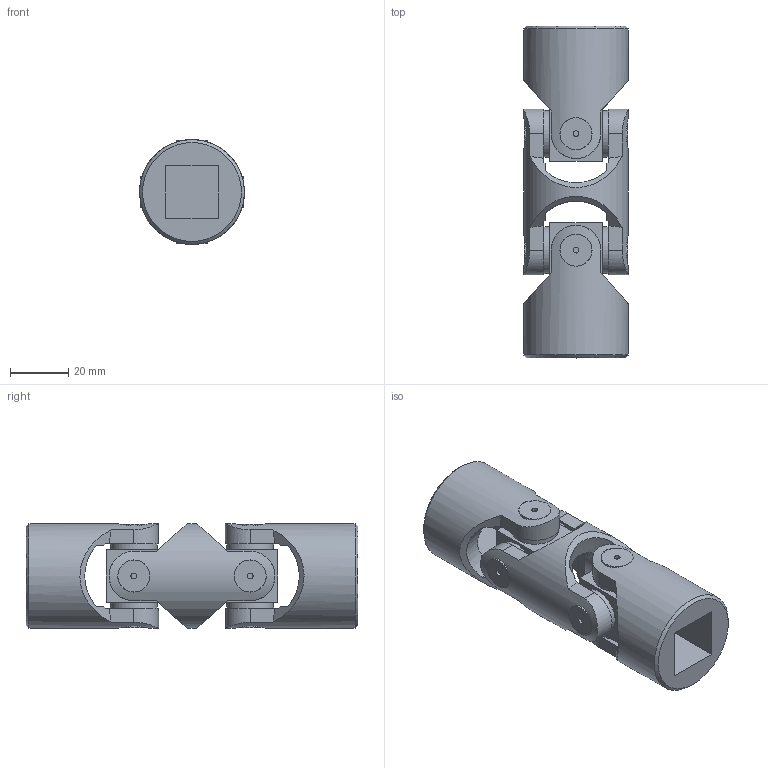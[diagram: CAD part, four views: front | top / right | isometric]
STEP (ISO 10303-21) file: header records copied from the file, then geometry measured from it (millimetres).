
FILE_DESCRIPTION(/* description */ (''),/* implementation_level */ '2;1');
FILE_NAME(/* name */ '\\SRV2016\Societa\Stefano\Disegni 3D\00Catalogo 3D\02Doppi GD-GBD\SG0D182Q.stp',/* time_stamp */ '2021-11-23T12:24:01+01:00',/* author */ ('acquisti'),/* organization */ (''),/* preprocessor_version */ 'ST-DEVELOPER v15.6',/* originating_system */ 'Autodesk Inventor 2015',/* authorisation */ '');
FILE_SCHEMA (('AUTOMOTIVE_DESIGN { 1 0 10303 214 3 1 1 }'));
Length unit declared in the file: millimetre
Products named in the file (4): 2G MOD; 2G SFE; 2G MOQ; Ø36_2GD-00_SG0D1800
Assembly tree (5 placements, depth 2):
  Ø36_2GD-00_SG0D1800
    2G MOD
    2G SFE  x2
    2G MOQ  x2
Bounding box: 36 x 114 x 36 mm (x, y, z)
Volume: 71748.4 mm3; surface area: 26255.7 mm2
Topology: 5 solids, 5 shells, 179 faces, 435 edges, 286 vertices
Faces by surface type: plane 78, cylinder 69, cone 28, torus 4
Full cylindrical faces by diameter (mm): 2 x8, 16 x8, 20 x2, 36 x3
Entity records: 4134 total; most frequent: CARTESIAN_POINT 1437, ORIENTED_EDGE 548, DIRECTION 510, EDGE_CURVE 274, AXIS2_PLACEMENT_3D 223, VERTEX_POINT 192, EDGE_LOOP 158, FACE_OUTER_BOUND 121
